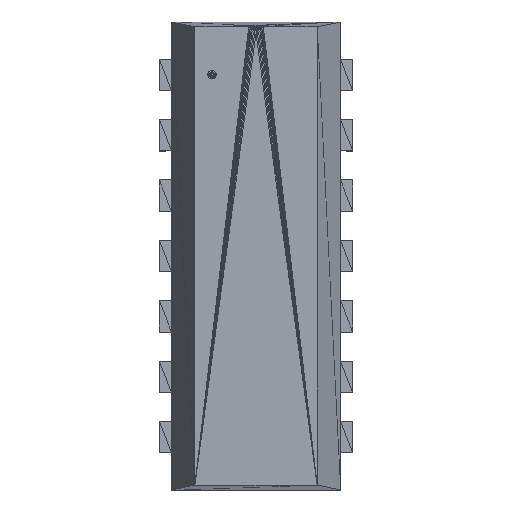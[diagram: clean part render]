
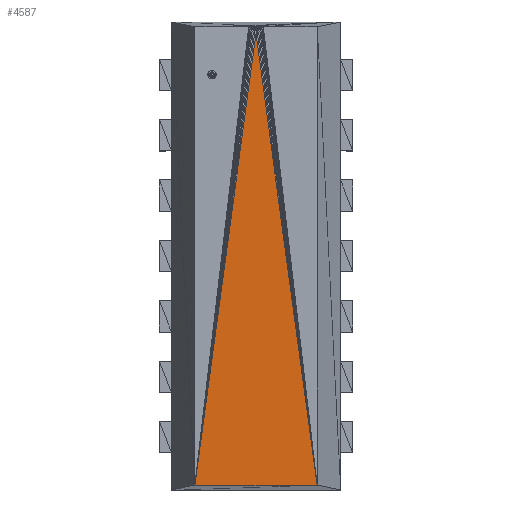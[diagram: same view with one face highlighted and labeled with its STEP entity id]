
A CAD part, top view. The second image highlights one B-rep face of the part: STEP entity #4587.
In plain terms, the highlighted planar face has unit normal (0, 0, 1).
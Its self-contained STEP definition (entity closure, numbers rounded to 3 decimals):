
#4587=ADVANCED_FACE('',(#4588),#4614,.F.);
#4588=FACE_OUTER_BOUND('',#4589,.T.);
#4589=EDGE_LOOP('',(#4590,#4592,#4594));
#4590=ORIENTED_EDGE('',*,*,#4591,.T.);
#4591=EDGE_CURVE('',#4596,#4598,#4600,.T.);
#4592=ORIENTED_EDGE('',*,*,#4593,.T.);
#4593=EDGE_CURVE('',#4598,#4604,#4606,.T.);
#4594=ORIENTED_EDGE('',*,*,#4595,.T.);
#4595=EDGE_CURVE('',#4604,#4596,#4610,.T.);
#4596=VERTEX_POINT('',#4597);
#4597=CARTESIAN_POINT('',(-3.937,16.955,7.874));
#4598=VERTEX_POINT('',#4599);
#4599=CARTESIAN_POINT('',(-1.363,-2.02,7.874));
#4600=LINE('',#4601,#4602);
#4601=CARTESIAN_POINT('',(-3.937,16.955,7.874));
#4602=VECTOR('',#4603,1.0);
#4603=DIRECTION('',(-0.134,0.991,0.0));
#4604=VERTEX_POINT('',#4605);
#4605=CARTESIAN_POINT('',(-6.511,-2.02,7.874));
#4606=LINE('',#4607,#4608);
#4607=CARTESIAN_POINT('',(-1.363,-2.02,7.874));
#4608=VECTOR('',#4609,1.0);
#4609=DIRECTION('',(1.0,0.0,0.0));
#4610=LINE('',#4611,#4612);
#4611=CARTESIAN_POINT('',(-6.511,-2.02,7.874));
#4612=VECTOR('',#4613,1.0);
#4613=DIRECTION('',(-0.134,-0.991,0.0));
#4614=PLANE('',#4615);
#4615=AXIS2_PLACEMENT_3D('',#4616,#4617,#4618);
#4616=CARTESIAN_POINT('',(-1.363,-2.02,7.874));
#4617=DIRECTION('',(0.0,0.0,-1.0));
#4618=DIRECTION('',(0.134,0.991,0.0));
